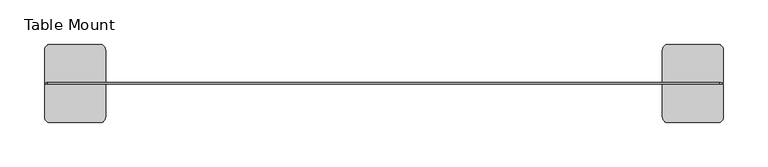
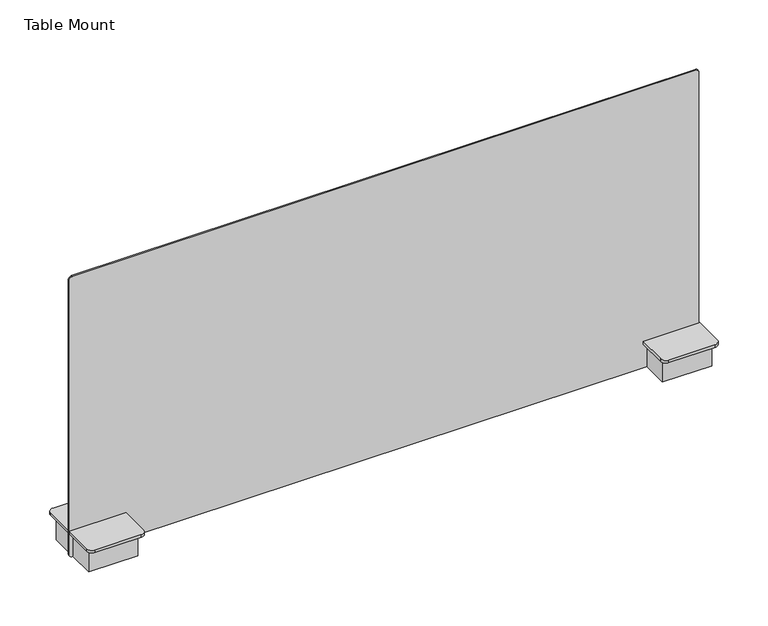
"""IFC4 building model written with IfcOpenShell, lengths in millimetres: furniture geometry, Steelcase Turnstone - Bivi - Accessories - Screen - Metal : Table Mount."""

from ifc_helpers import new_model, si_unit, point, frame, frame_2d, origin, place, context, project, spatial, polyline, circle_curve, trimmed, segment, composite_curve, outline, extrude, source, transform, mapped, element, save


def table_mount_b10ff3c6(model_context):
    return source(origin(), model_context, "Body", "SweptSolid", [
        extrude(outline(composite_curve([segment(polyline([(1051.897743, 810.641), (1051.897743, 56.1898107)]), True, "CONTINUOUS"), segment(trimmed(circle_curve(frame_2d((1048.1589323, 56.1898107)), 3.7388107), [point((1051.897743, 56.1898107))], [point((1048.1589323, 52.451))], False, "CARTESIAN"), True, "CONTINUOUS"), segment(polyline([(1048.1589323, 52.451), (697.23, 52.451)]), True, "CONTINUOUS"), segment(trimmed(circle_curve(frame_2d((697.23, 56.261)), 3.81), [point((697.23, 52.451))], [point((693.42, 56.261))], False, "CARTESIAN"), True, "CONTINUOUS"), segment(polyline([(693.42, 56.261), (693.42, 810.641)]), True, "CONTINUOUS"), segment(trimmed(circle_curve(frame_2d((697.23, 810.641)), 3.81), [point((693.42, 810.641))], [point((697.23, 814.451))], False, "CARTESIAN"), True, "CONTINUOUS"), segment(polyline([(697.23, 814.451), (1048.087743, 814.451)]), True, "CONTINUOUS"), segment(trimmed(circle_curve(frame_2d((1048.087743, 810.641)), 3.81), [point((1048.087743, 814.451))], [point((1051.897743, 810.641))], False, "CARTESIAN"), True, "CONTINUOUS")], self_intersect=False)), frame((0.0, -234.0991046, 0.0), z_axis=(0.0, 1.0, 0.0), x_axis=(0.0, 0.0, 1.0)), (0.0, 0.0, 1.0), 1.6002),
        extrude(outline(polyline([(116.586, -267.1318046), (56.896, -267.1318046), (56.896, -234.0991046), (116.586, -234.0991046), (116.586, -267.1318046)])), frame((0.0, 0.0, 693.42), z_axis=(0.0, 0.0, 1.0), x_axis=(1.0, 0.0, 0.0)), (0.0, 0.0, 1.0), 30.48),
        extrude(outline(polyline([(116.586, -232.4989046), (56.896, -232.4989046), (56.896, -199.4662046), (116.586, -199.4662046), (116.586, -232.4989046)])), frame((0.0, 0.0, 693.42), z_axis=(0.0, 0.0, 1.0), x_axis=(1.0, 0.0, 0.0)), (0.0, 0.0, 1.0), 30.48),
        extrude(outline(polyline([(751.2175127, -267.1318046), (751.2175127, -234.0991046), (810.9075127, -234.0991046), (810.9075127, -267.1318046), (751.2175127, -267.1318046)])), frame((0.0, 0.0, 693.42), z_axis=(0.0, 0.0, 1.0), x_axis=(1.0, 0.0, 0.0)), (0.0, 0.0, 1.0), 30.48),
        extrude(outline(polyline([(751.2175127, -232.4989046), (751.2175127, -199.4662046), (810.9075127, -199.4662046), (810.9075127, -232.4989046), (751.2175127, -232.4989046)])), frame((0.0, 0.0, 693.42), z_axis=(0.0, 0.0, 1.0), x_axis=(1.0, 0.0, 0.0)), (0.0, 0.0, 1.0), 30.48),
        extrude(outline(composite_curve([segment(polyline([(121.031, -234.0991046), (121.031, -271.0053046)]), True, "CONTINUOUS"), segment(trimmed(circle_curve(frame_2d((114.681, -271.0053046)), 6.35), [point((121.031, -271.0053046))], [point((114.681, -277.3553046))], False, "CARTESIAN"), True, "CONTINUOUS"), segment(polyline([(114.681, -277.3553046), (58.801, -277.3553046)]), True, "CONTINUOUS"), segment(trimmed(circle_curve(frame_2d((58.801, -271.0053046)), 6.35), [point((58.801, -277.3553046))], [point((52.451, -271.0053046))], False, "CARTESIAN"), True, "CONTINUOUS"), segment(polyline([(52.451, -271.0053046), (52.451, -234.0991046), (121.031, -234.0991046)]), True, "CONTINUOUS")], self_intersect=False)), frame((0.0, 0.0, 723.9), z_axis=(0.0, 0.0, 1.0), x_axis=(1.0, 0.0, 0.0)), (0.0, 0.0, 1.0), 3.429),
        extrude(outline(composite_curve([segment(polyline([(121.031, -232.4989046), (52.451, -232.4989046), (52.451, -195.5927046)]), True, "CONTINUOUS"), segment(trimmed(circle_curve(frame_2d((58.801, -195.5927046)), 6.35), [point((52.451, -195.5927046))], [point((58.801, -189.2427046))], False, "CARTESIAN"), True, "CONTINUOUS"), segment(polyline([(58.801, -189.2427046), (114.681, -189.2427046)]), True, "CONTINUOUS"), segment(trimmed(circle_curve(frame_2d((114.681, -195.5927046)), 6.35), [point((114.681, -189.2427046))], [point((121.031, -195.5927046))], False, "CARTESIAN"), True, "CONTINUOUS"), segment(polyline([(121.031, -195.5927046), (121.031, -232.4989046)]), True, "CONTINUOUS")], self_intersect=False)), frame((0.0, 0.0, 723.9), z_axis=(0.0, 0.0, 1.0), x_axis=(1.0, 0.0, 0.0)), (0.0, 0.0, 1.0), 3.429),
        extrude(outline(composite_curve([segment(polyline([(746.7725127, -234.0991046), (815.3525127, -234.0991046), (815.3525127, -271.0053046)]), True, "CONTINUOUS"), segment(trimmed(circle_curve(frame_2d((809.0025127, -271.0053046)), 6.35), [point((815.3525127, -271.0053046))], [point((809.0025127, -277.3553046))], False, "CARTESIAN"), True, "CONTINUOUS"), segment(polyline([(809.0025127, -277.3553046), (753.1225127, -277.3553046)]), True, "CONTINUOUS"), segment(trimmed(circle_curve(frame_2d((753.1225127, -271.0053046)), 6.35), [point((753.1225127, -277.3553046))], [point((746.7725127, -271.0053046))], False, "CARTESIAN"), True, "CONTINUOUS"), segment(polyline([(746.7725127, -271.0053046), (746.7725127, -234.0991046)]), True, "CONTINUOUS")], self_intersect=False)), frame((0.0, 0.0, 723.9), z_axis=(0.0, 0.0, 1.0), x_axis=(1.0, 0.0, 0.0)), (0.0, 0.0, 1.0), 3.429),
        extrude(outline(composite_curve([segment(polyline([(746.7725127, -232.4989046), (746.7725127, -195.5927046)]), True, "CONTINUOUS"), segment(trimmed(circle_curve(frame_2d((753.1225127, -195.5927046)), 6.35), [point((746.7725127, -195.5927046))], [point((753.1225127, -189.2427046))], False, "CARTESIAN"), True, "CONTINUOUS"), segment(polyline([(753.1225127, -189.2427046), (809.0025127, -189.2427046)]), True, "CONTINUOUS"), segment(trimmed(circle_curve(frame_2d((809.0025127, -195.5927046)), 6.35), [point((809.0025127, -189.2427046))], [point((815.3525127, -195.5927046))], False, "CARTESIAN"), True, "CONTINUOUS"), segment(polyline([(815.3525127, -195.5927046), (815.3525127, -232.4989046), (746.7725127, -232.4989046)]), True, "CONTINUOUS")], self_intersect=False)), frame((0.0, 0.0, 723.9), z_axis=(0.0, 0.0, 1.0), x_axis=(1.0, 0.0, 0.0)), (0.0, 0.0, 1.0), 3.429),
    ])


if __name__ == "__main__":
    model = new_model("IFC4")
    model_context = context("Model", 3, world=origin())
    ifc_project = project(units=[si_unit("LENGTHUNIT", "METRE", prefix="MILLI")], contexts=[model_context])
    site = spatial("IfcSite", under=ifc_project)
    building = spatial("IfcBuilding", under=site)
    placement = place(None, origin())
    table_mount_shape = table_mount_b10ff3c6(model_context)
    element("IfcFurniture", 1, ObjectType="Steelcase Turnstone - Bivi - Accessories - Screen - Metal : Table Mount", at=placement, inside=building, context=model_context, shape_type="MappedRepresentation", body=[
        mapped(table_mount_shape, transform((0.0, 0.0, 0.0), x_axis=(1.0, 0.0, 0.0), y_axis=(0.0, 1.0, 0.0), z_axis=(0.0, 0.0, 1.0))),
    ])
    save(model, "model.ifc")
